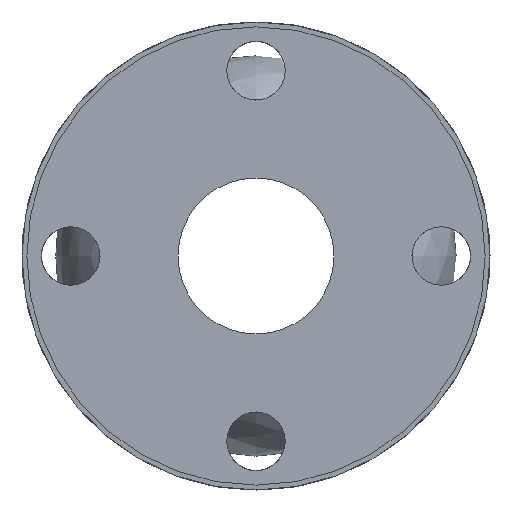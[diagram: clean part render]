
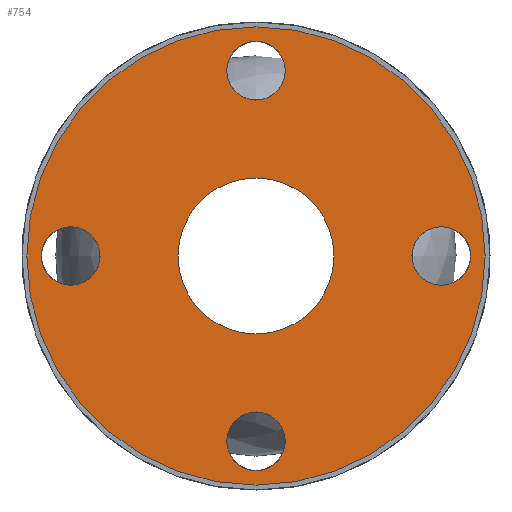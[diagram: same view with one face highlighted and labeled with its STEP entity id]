
A CAD part, left-side view. The second image highlights one B-rep face of the part: STEP entity #754.
In plain terms, the highlighted planar face has unit normal (-1, 0, 0).
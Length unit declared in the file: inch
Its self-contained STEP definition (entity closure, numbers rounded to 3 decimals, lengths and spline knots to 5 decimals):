
#247=CARTESIAN_POINT('',(-3.,0.375,-2.375));
#248=VERTEX_POINT('',#247);
#249=CARTESIAN_POINT('',(-3.,0.,-2.375));
#250=DIRECTION('',(1.0,0.0,0.0));
#251=DIRECTION('',(0.0,1.0,0.0));
#252=AXIS2_PLACEMENT_3D('',#249,#250,#251);
#253=CIRCLE('',#252,0.375);
#254=EDGE_CURVE('',#248,#248,#253,.T.);
#275=CARTESIAN_POINT('',(-3.,-2.375,-0.375));
#276=VERTEX_POINT('',#275);
#277=CARTESIAN_POINT('',(-3.,-2.375,0.));
#278=DIRECTION('',(1.0,0.0,0.0));
#279=DIRECTION('',(0.0,0.0,-1.0));
#280=AXIS2_PLACEMENT_3D('',#277,#278,#279);
#281=CIRCLE('',#280,0.375);
#282=EDGE_CURVE('',#276,#276,#281,.T.);
#303=CARTESIAN_POINT('',(-3.,-0.375,2.375));
#304=VERTEX_POINT('',#303);
#305=CARTESIAN_POINT('',(-3.,0.,2.375));
#306=DIRECTION('',(1.0,0.0,0.0));
#307=DIRECTION('',(0.0,-1.0,0.0));
#308=AXIS2_PLACEMENT_3D('',#305,#306,#307);
#309=CIRCLE('',#308,0.375);
#310=EDGE_CURVE('',#304,#304,#309,.T.);
#331=CARTESIAN_POINT('',(-3.,2.375,0.375));
#332=VERTEX_POINT('',#331);
#333=CARTESIAN_POINT('',(-3.,2.375,0.0));
#334=DIRECTION('',(1.0,0.0,0.0));
#335=DIRECTION('',(0.0,0.0,1.0));
#336=AXIS2_PLACEMENT_3D('',#333,#334,#335);
#337=CIRCLE('',#336,0.375);
#338=EDGE_CURVE('',#332,#332,#337,.T.);
#359=CARTESIAN_POINT('',(-3.,2.9375,0.0));
#360=VERTEX_POINT('',#359);
#361=CARTESIAN_POINT('',(-3.,0.0,0.0));
#362=DIRECTION('',(1.0,0.0,0.0));
#363=DIRECTION('',(0.0,1.0,0.0));
#364=AXIS2_PLACEMENT_3D('',#361,#362,#363);
#365=CIRCLE('',#364,2.9375);
#366=EDGE_CURVE('',#360,#360,#365,.T.);
#716=CARTESIAN_POINT('',(-3.0,1.,0.0));
#717=VERTEX_POINT('',#716);
#718=CARTESIAN_POINT('',(-3.0,0.0,0.0));
#719=DIRECTION('',(1.0,0.0,0.0));
#720=DIRECTION('',(0.0,1.0,0.0));
#721=AXIS2_PLACEMENT_3D('',#718,#719,#720);
#722=CIRCLE('',#721,1.);
#723=EDGE_CURVE('',#717,#717,#722,.T.);
#731=CARTESIAN_POINT('',(-3.,1.96875,0.0));
#732=DIRECTION('',(-1.0,0.0,0.0));
#733=DIRECTION('',(0.0,0.0,1.0));
#734=AXIS2_PLACEMENT_3D('',#731,#732,#733);
#735=PLANE('',#734);
#736=ORIENTED_EDGE('',*,*,#366,.F.);
#737=EDGE_LOOP('',(#736));
#738=FACE_OUTER_BOUND('',#737,.T.);
#739=ORIENTED_EDGE('',*,*,#254,.T.);
#740=EDGE_LOOP('',(#739));
#741=FACE_BOUND('',#740,.T.);
#742=ORIENTED_EDGE('',*,*,#282,.T.);
#743=EDGE_LOOP('',(#742));
#744=FACE_BOUND('',#743,.T.);
#745=ORIENTED_EDGE('',*,*,#310,.T.);
#746=EDGE_LOOP('',(#745));
#747=FACE_BOUND('',#746,.T.);
#748=ORIENTED_EDGE('',*,*,#338,.T.);
#749=EDGE_LOOP('',(#748));
#750=FACE_BOUND('',#749,.T.);
#751=ORIENTED_EDGE('',*,*,#723,.T.);
#752=EDGE_LOOP('',(#751));
#753=FACE_BOUND('',#752,.T.);
#754=ADVANCED_FACE('',(#738,#741,#744,#747,#750,#753),#735,.T.);
